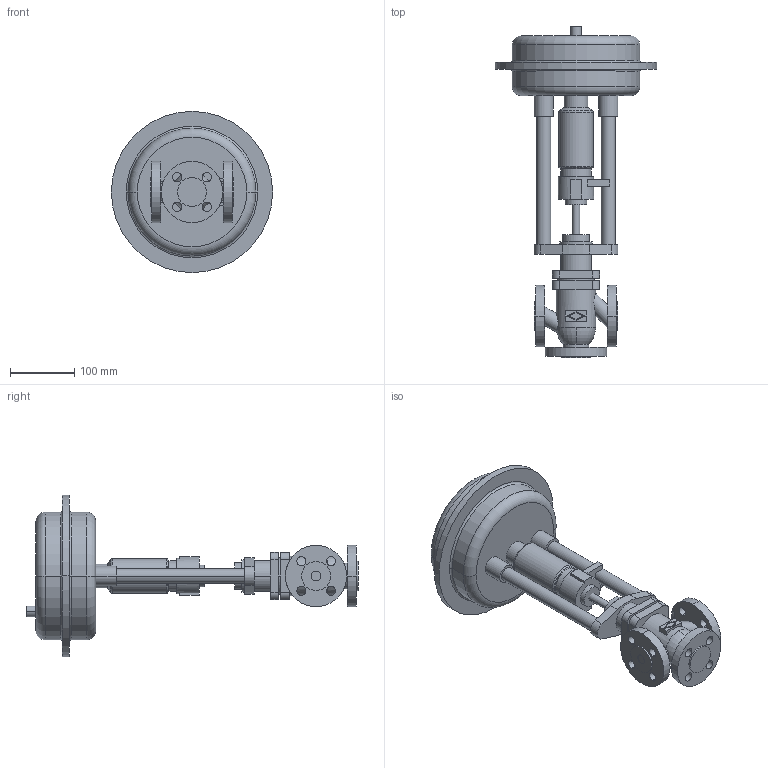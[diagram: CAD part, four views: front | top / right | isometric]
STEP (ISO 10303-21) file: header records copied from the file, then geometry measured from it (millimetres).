
FILE_DESCRIPTION(('OneSpaceDesigner STEP Export'),'2;1');
FILE_NAME('c000000767.stp','2006-09-13T12:38:02',(''),(''),'OneSpace Designer STEP processor for AP214 (Solid Model)','OneSpace Designer 13.20A 18-Aug-2005 (C) CoCreate Software GmbH','');
FILE_SCHEMA(('AUTOMOTIVE_DESIGN { 1 0 10303 214 1 1 1 1 }'));
Length unit declared in the file: millimetre
Products named in the file (2): 1; 2
Bounding box: 250 x 515 x 250 mm (x, y, z)
Volume: 4398015.5 mm3; surface area: 333712.8 mm2
Topology: 2 solids, 2 shells, 205 faces, 497 edges, 326 vertices
Faces by surface type: cylinder 100, plane 83, torus 18, cone 4
Entity records: 5499 total; most frequent: CARTESIAN_POINT 1035, ORIENTED_EDGE 994, DIRECTION 818, EDGE_CURVE 497, VERTEX_POINT 326, AXIS2_PLACEMENT_3D 294, EDGE_LOOP 259, VECTOR 230
